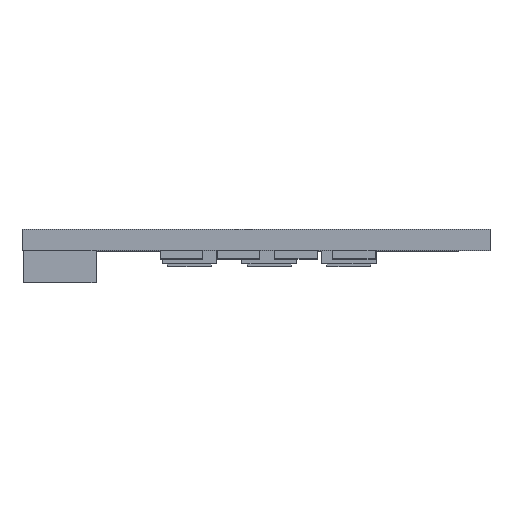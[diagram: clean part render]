
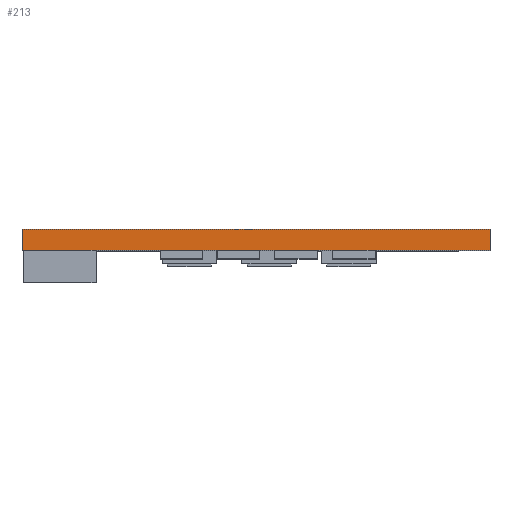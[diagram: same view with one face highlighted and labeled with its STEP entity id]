
A CAD part, top view. The second image highlights one B-rep face of the part: STEP entity #213.
In plain terms, the highlighted planar face has unit normal (0, 0, 1).
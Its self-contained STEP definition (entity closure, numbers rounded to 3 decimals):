
#72 = PLANE('',#73);
#73 = AXIS2_PLACEMENT_3D('',#74,#75,#76);
#74 = CARTESIAN_POINT('',(4.747,7.77,16.154));
#75 = DIRECTION('',(0.,1.,0.));
#76 = DIRECTION('',(-1.,0.,0.));
#100 = PLANE('',#101);
#101 = AXIS2_PLACEMENT_3D('',#102,#103,#104);
#102 = CARTESIAN_POINT('',(-12.876,9.37,19.344));
#103 = DIRECTION('',(-1.,0.,0.));
#104 = DIRECTION('',(0.,0.,1.));
#126 = PLANE('',#127);
#127 = AXIS2_PLACEMENT_3D('',#128,#129,#130);
#128 = CARTESIAN_POINT('',(4.747,9.37,16.154));
#129 = DIRECTION('',(0.,1.,0.));
#130 = DIRECTION('',(-1.,0.,0.));
#143 = VERTEX_POINT('',#144);
#144 = CARTESIAN_POINT('',(-12.876,7.77,28.818
    ));
#165 = EDGE_CURVE('',#166,#143,#168,.T.);
#166 = VERTEX_POINT('',#167);
#167 = CARTESIAN_POINT('',(-12.876,9.37,28.818));
#168 = SURFACE_CURVE('',#169,(#173,#180),.PCURVE_S1.);
#169 = LINE('',#170,#171);
#170 = CARTESIAN_POINT('',(-12.876,9.37,28.818));
#171 = VECTOR('',#172,1.);
#172 = DIRECTION('',(0.,-1.,0.));
#173 = PCURVE('',#100,#174);
#174 = DEFINITIONAL_REPRESENTATION('',(#175),#179);
#175 = LINE('',#176,#177);
#176 = CARTESIAN_POINT('',(9.475,0.));
#177 = VECTOR('',#178,1.);
#178 = DIRECTION('',(0.,-1.));
#179 = ( GEOMETRIC_REPRESENTATION_CONTEXT(2) 
PARAMETRIC_REPRESENTATION_CONTEXT() REPRESENTATION_CONTEXT('2D SPACE',''
  ) );
#180 = PCURVE('',#181,#186);
#181 = PLANE('',#182);
#182 = AXIS2_PLACEMENT_3D('',#183,#184,#185);
#183 = CARTESIAN_POINT('',(-12.876,9.37,28.818));
#184 = DIRECTION('',(0.,0.,1.));
#185 = DIRECTION('',(1.,0.,0.));
#186 = DEFINITIONAL_REPRESENTATION('',(#187),#191);
#187 = LINE('',#188,#189);
#188 = CARTESIAN_POINT('',(0.,0.));
#189 = VECTOR('',#190,1.);
#190 = DIRECTION('',(0.,-1.));
#191 = ( GEOMETRIC_REPRESENTATION_CONTEXT(2) 
PARAMETRIC_REPRESENTATION_CONTEXT() REPRESENTATION_CONTEXT('2D SPACE',''
  ) );
#213 = ADVANCED_FACE('',(#214),#181,.T.);
#214 = FACE_BOUND('',#215,.T.);
#215 = EDGE_LOOP('',(#216,#217,#240,#268));
#216 = ORIENTED_EDGE('',*,*,#165,.T.);
#217 = ORIENTED_EDGE('',*,*,#218,.T.);
#218 = EDGE_CURVE('',#143,#219,#221,.T.);
#219 = VERTEX_POINT('',#220);
#220 = CARTESIAN_POINT('',(22.409,7.77,28.818)
  );
#221 = SURFACE_CURVE('',#222,(#226,#233),.PCURVE_S1.);
#222 = LINE('',#223,#224);
#223 = CARTESIAN_POINT('',(-12.876,7.77,28.818
    ));
#224 = VECTOR('',#225,1.);
#225 = DIRECTION('',(1.,0.,0.));
#226 = PCURVE('',#181,#227);
#227 = DEFINITIONAL_REPRESENTATION('',(#228),#232);
#228 = LINE('',#229,#230);
#229 = CARTESIAN_POINT('',(0.,-1.6));
#230 = VECTOR('',#231,1.);
#231 = DIRECTION('',(1.,0.));
#232 = ( GEOMETRIC_REPRESENTATION_CONTEXT(2) 
PARAMETRIC_REPRESENTATION_CONTEXT() REPRESENTATION_CONTEXT('2D SPACE',''
  ) );
#233 = PCURVE('',#72,#234);
#234 = DEFINITIONAL_REPRESENTATION('',(#235),#239);
#235 = LINE('',#236,#237);
#236 = CARTESIAN_POINT('',(17.623,12.664));
#237 = VECTOR('',#238,1.);
#238 = DIRECTION('',(-1.,0.));
#239 = ( GEOMETRIC_REPRESENTATION_CONTEXT(2) 
PARAMETRIC_REPRESENTATION_CONTEXT() REPRESENTATION_CONTEXT('2D SPACE',''
  ) );
#240 = ORIENTED_EDGE('',*,*,#241,.F.);
#241 = EDGE_CURVE('',#242,#219,#244,.T.);
#242 = VERTEX_POINT('',#243);
#243 = CARTESIAN_POINT('',(22.409,9.37,28.818));
#244 = SURFACE_CURVE('',#245,(#249,#256),.PCURVE_S1.);
#245 = LINE('',#246,#247);
#246 = CARTESIAN_POINT('',(22.409,9.37,28.818));
#247 = VECTOR('',#248,1.);
#248 = DIRECTION('',(0.,-1.,0.));
#249 = PCURVE('',#181,#250);
#250 = DEFINITIONAL_REPRESENTATION('',(#251),#255);
#251 = LINE('',#252,#253);
#252 = CARTESIAN_POINT('',(35.285,0.));
#253 = VECTOR('',#254,1.);
#254 = DIRECTION('',(0.,-1.));
#255 = ( GEOMETRIC_REPRESENTATION_CONTEXT(2) 
PARAMETRIC_REPRESENTATION_CONTEXT() REPRESENTATION_CONTEXT('2D SPACE',''
  ) );
#256 = PCURVE('',#257,#262);
#257 = PLANE('',#258);
#258 = AXIS2_PLACEMENT_3D('',#259,#260,#261);
#259 = CARTESIAN_POINT('',(22.409,9.37,28.818));
#260 = DIRECTION('',(1.,0.,0.));
#261 = DIRECTION('',(0.,0.,-1.));
#262 = DEFINITIONAL_REPRESENTATION('',(#263),#267);
#263 = LINE('',#264,#265);
#264 = CARTESIAN_POINT('',(0.,0.));
#265 = VECTOR('',#266,1.);
#266 = DIRECTION('',(0.,-1.));
#267 = ( GEOMETRIC_REPRESENTATION_CONTEXT(2) 
PARAMETRIC_REPRESENTATION_CONTEXT() REPRESENTATION_CONTEXT('2D SPACE',''
  ) );
#268 = ORIENTED_EDGE('',*,*,#269,.F.);
#269 = EDGE_CURVE('',#166,#242,#270,.T.);
#270 = SURFACE_CURVE('',#271,(#275,#282),.PCURVE_S1.);
#271 = LINE('',#272,#273);
#272 = CARTESIAN_POINT('',(-12.876,9.37,28.818));
#273 = VECTOR('',#274,1.);
#274 = DIRECTION('',(1.,0.,0.));
#275 = PCURVE('',#181,#276);
#276 = DEFINITIONAL_REPRESENTATION('',(#277),#281);
#277 = LINE('',#278,#279);
#278 = CARTESIAN_POINT('',(0.,0.));
#279 = VECTOR('',#280,1.);
#280 = DIRECTION('',(1.,0.));
#281 = ( GEOMETRIC_REPRESENTATION_CONTEXT(2) 
PARAMETRIC_REPRESENTATION_CONTEXT() REPRESENTATION_CONTEXT('2D SPACE',''
  ) );
#282 = PCURVE('',#126,#283);
#283 = DEFINITIONAL_REPRESENTATION('',(#284),#288);
#284 = LINE('',#285,#286);
#285 = CARTESIAN_POINT('',(17.623,12.664));
#286 = VECTOR('',#287,1.);
#287 = DIRECTION('',(-1.,0.));
#288 = ( GEOMETRIC_REPRESENTATION_CONTEXT(2) 
PARAMETRIC_REPRESENTATION_CONTEXT() REPRESENTATION_CONTEXT('2D SPACE',''
  ) );
